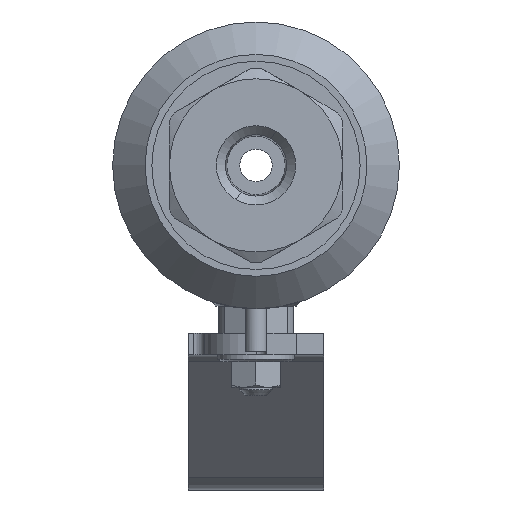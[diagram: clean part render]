
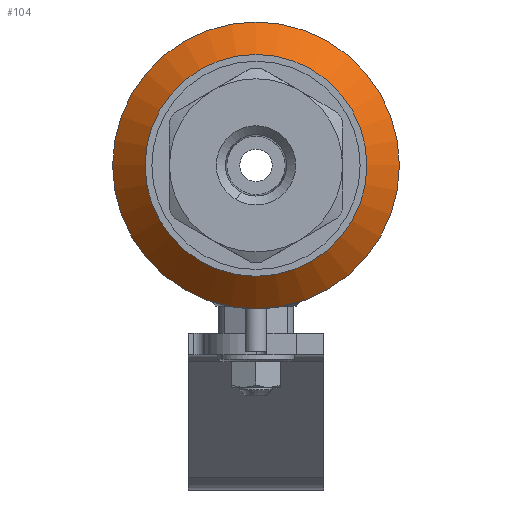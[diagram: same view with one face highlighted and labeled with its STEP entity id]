
A CAD part, left-side view. The second image highlights one B-rep face of the part: STEP entity #104.
In plain terms, the highlighted conical face has half-angle 45 degrees and reference radius 23.5 mm.
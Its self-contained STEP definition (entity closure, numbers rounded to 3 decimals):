
#104=ADVANCED_FACE('',(#900),#902,.T.);
#900=FACE_OUTER_BOUND('',#901,.T.);
#901=EDGE_LOOP('',(#2350,#2351,#2352,#2353));
#902=CONICAL_SURFACE('',#903,23.5,0.785);
#903=AXIS2_PLACEMENT_3D('',#904,#905,#906);
#904=CARTESIAN_POINT('',(-28.5,0.,0.));
#905=DIRECTION('',(1.,0.,0.));
#906=DIRECTION('',(0.,1.,0.));
#2350=ORIENTED_EDGE('',*,*,#3698,.T.);
#2351=ORIENTED_EDGE('',*,*,#3699,.T.);
#2352=ORIENTED_EDGE('',*,*,#3698,.F.);
#2353=ORIENTED_EDGE('',*,*,#3681,.F.);
#3681=EDGE_CURVE('',#4089,#4089,#4090,.T.);
#3698=EDGE_CURVE('',#4089,#4118,#4119,.T.);
#3699=EDGE_CURVE('',#4118,#4118,#4120,.T.);
#4089=VERTEX_POINT('',#4751);
#4090=CIRCLE('',#4752,20.5);
#4118=VERTEX_POINT('',#5016);
#4119=LINE('',#5017,#5018);
#4120=CIRCLE('',#5020,26.5);
#4751=CARTESIAN_POINT('',(-31.5,-20.5,0.));
#4752=AXIS2_PLACEMENT_3D('',#4753,#4754,#4755);
#4753=CARTESIAN_POINT('',(-31.5,0.,0.));
#4754=DIRECTION('',(-1.,-0.,-0.));
#4755=DIRECTION('',(0.,-1.,0.));
#5016=CARTESIAN_POINT('',(-25.5,-26.5,0.));
#5017=CARTESIAN_POINT('',(-31.5,-20.5,0.));
#5018=VECTOR('',#5019,1.);
#5019=DIRECTION('',(0.707,-0.707,0.));
#5020=AXIS2_PLACEMENT_3D('',#5021,#5022,#5023);
#5021=CARTESIAN_POINT('',(-25.5,0.,0.));
#5022=DIRECTION('',(-1.,-0.,0.));
#5023=DIRECTION('',(0.,-1.,0.));
